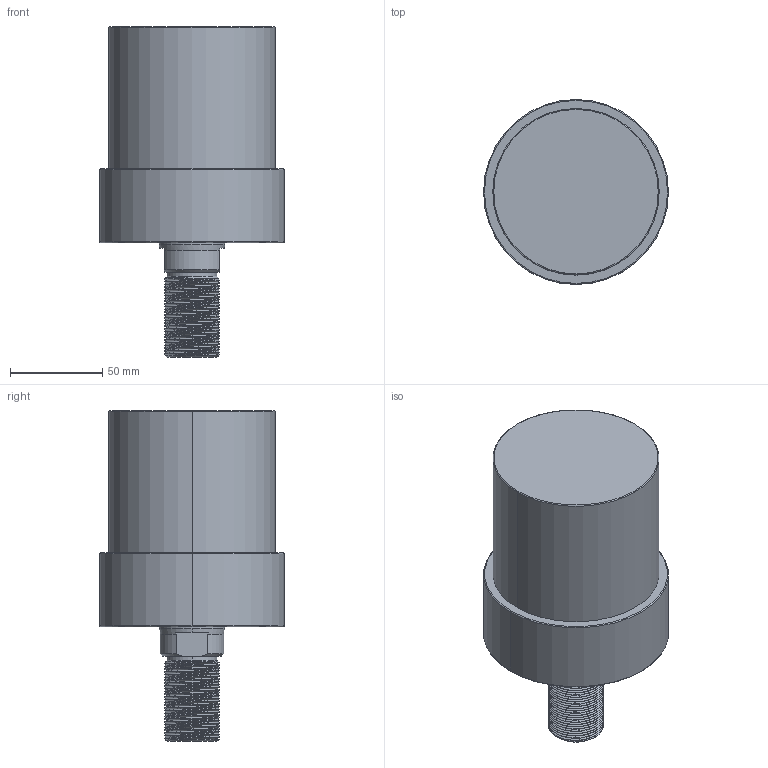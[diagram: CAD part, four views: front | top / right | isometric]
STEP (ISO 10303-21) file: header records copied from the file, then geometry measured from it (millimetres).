
FILE_DESCRIPTION (( 'STEP AP203' ), '1' );
FILE_NAME ('CLLU-090GT-055.STEP', '2020-01-13T02:55:24', ( '' ), ( '' ), 'SwSTEP 2.0', 'SolidWorks 2015', '' );
FILE_SCHEMA (( 'CONFIG_CONTROL_DESIGN' ));
Length unit declared in the file: millimetre
Products named in the file (1): CLLU-090GT-055
Bounding box: 100 x 100 x 179 mm (x, y, z)
Volume: 842543.5 mm3; surface area: 61659.3 mm2
Topology: 1 solids, 1 shells, 123 faces, 321 edges, 201 vertices
Faces by surface type: cylinder 78, cone 26, plane 11, torus 6, bspline 2
Entity records: 7147 total; most frequent: CARTESIAN_POINT 4412, ORIENTED_EDGE 626, DIRECTION 501, EDGE_CURVE 313, VERTEX_POINT 201, AXIS2_PLACEMENT_3D 197, EDGE_LOOP 132, FACE_OUTER_BOUND 123
